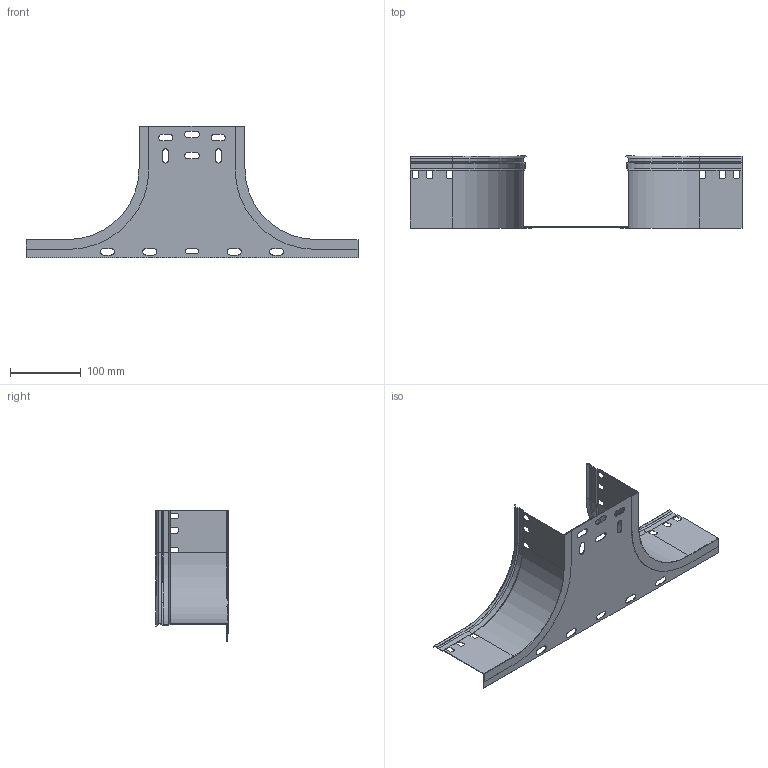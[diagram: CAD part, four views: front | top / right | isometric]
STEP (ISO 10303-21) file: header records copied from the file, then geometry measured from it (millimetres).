
FILE_DESCRIPTION (( 'STEP AP203' ), '1' );
FILE_NAME ('ERE_AS 150x100.step', '2023-07-27T18:50:34', ( '' ), ( '' ), 'SwSTEP 2.0', 'SolidWorks 2022', '' );
FILE_SCHEMA (( 'CONFIG_CONTROL_DESIGN' ));
Length unit declared in the file: millimetre
Products named in the file (3): ERE_LATERAL AS_100; ERE_BASE AS_150; ERE_AS 150x100
Assembly tree (3 placements, depth 2):
  ERE_AS 150x100
    ERE_BASE AS_150
    ERE_LATERAL AS_100  x2
Bounding box: 470 x 102 x 185.5 mm (x, y, z)
Volume: 95035.3 mm3; surface area: 208717.6 mm2
Topology: 3 solids, 3 shells, 210 faces, 600 edges, 372 vertices
Faces by surface type: plane 132, cylinder 64, cone 14
Entity records: 4743 total; most frequent: CARTESIAN_POINT 778, ORIENTED_EDGE 768, DIRECTION 766, EDGE_CURVE 384, VECTOR 274, LINE 274, AXIS2_PLACEMENT_3D 246, VERTEX_POINT 242
